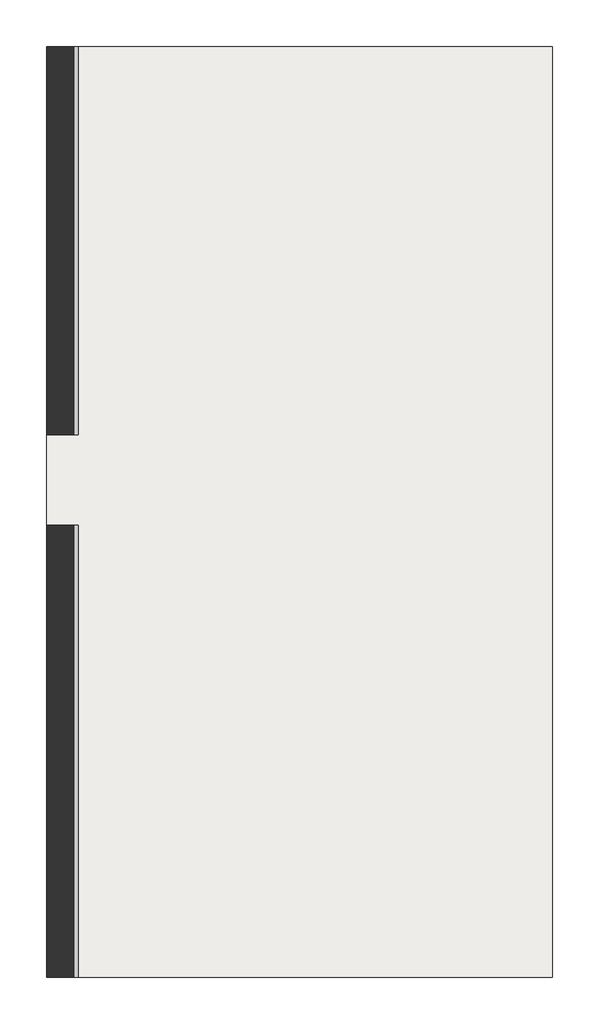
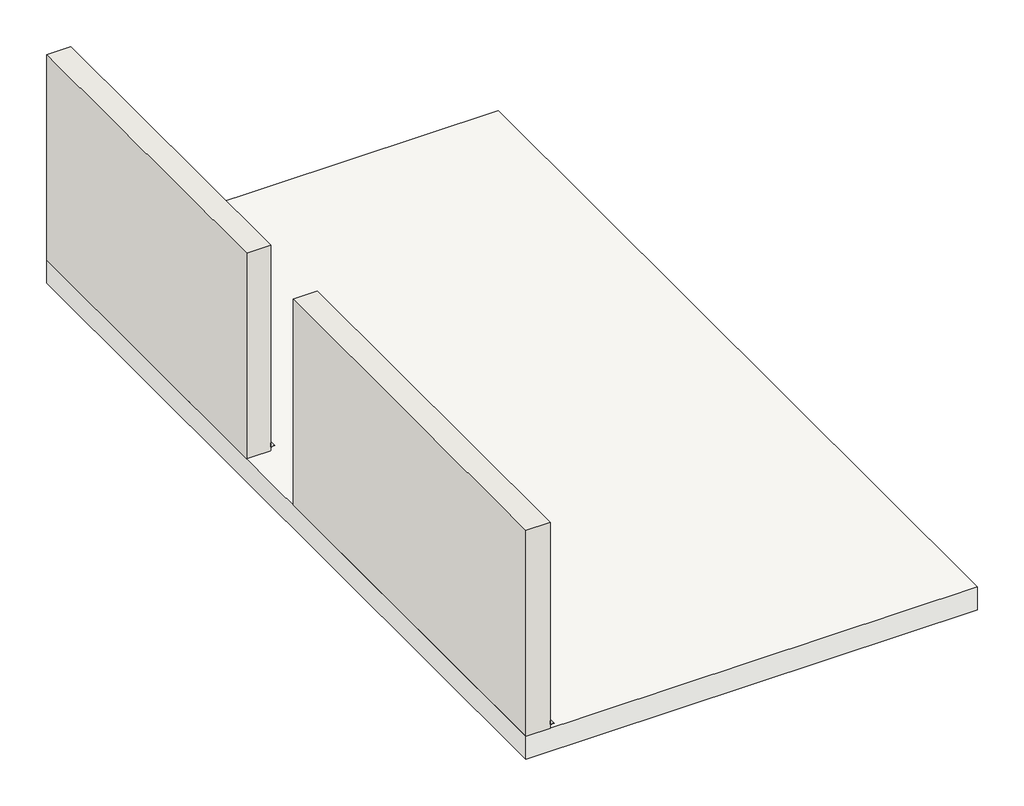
# One storey: 2 proxies, 2 walls, 1 slab.
"""IFC4 building model written with IfcOpenShell, lengths in millimetres."""

from ifc_helpers import new_model, si_unit, frame, origin, place, context, project, spatial, polyline, outline, extrude, element, save

model = new_model("IFC4")

# Units and contexts
model_context = context("Model", 3, world=origin())
ifc_project = project(units=[si_unit("LENGTHUNIT", "METRE", prefix="MILLI")], contexts=[model_context])

# Site, building, storey
site = spatial("IfcSite", under=ifc_project)
building = spatial("IfcBuilding", under=site)
storey = spatial("IfcBuildingStorey", under=building, Name="1 - Sopra solaio", Elevation=3000.0)

# Proxies
placement = place(None, origin())
element("IfcBuildingElementProxy", 1, Name="AQUASCUD JOIN VOLTECO", ObjectType="AQUASCUD JOIN VOLTECO", at=placement, inside=storey, context=model_context, shape_type="SweptSolid", body=[
    extrude(outline(polyline([(3100.0, -4623.4230353), (3050.0, -4623.4230353), (3050.0, -4573.4230353), (3051.0, -4573.4230353), (3051.0, -4622.4230353), (3100.0, -4622.4230353), (3100.0, -4623.4230353)])), frame((0.0, -3159.7326939, 0.0), z_axis=(0.0, 1.0, 0.0), x_axis=(0.0, 0.0, 1.0)), (0.0, 0.0, 1.0), 5003.9897017),
])
element("IfcBuildingElementProxy", 2, Name="AQUASCUD JOIN VOLTECO", ObjectType="AQUASCUD JOIN VOLTECO", at=placement, inside=storey, context=model_context, shape_type="SweptSolid", body=[
    extrude(outline(polyline([(3100.0, -4623.4230353), (3050.0, -4623.4230353), (3050.0, -4573.4230353), (3051.0, -4573.4230353), (3051.0, -4622.4230353), (3100.0, -4622.4230353), (3100.0, -4623.4230353)])), frame((0.0, 2844.2570078, 0.0), z_axis=(0.0, 1.0, 0.0), x_axis=(0.0, 0.0, 1.0)), (0.0, 0.0, 1.0), 4296.0102983),
])

# Slab
element("IfcSlab", 3, ObjectType="SOLAIO 30 cm", at=placement, inside=storey, context=model_context, shape_type="SweptSolid", body=[
    extrude(outline(polyline([(676.5769647, 7140.2673061), (676.5769647, -3159.7326939), (-4923.4230353, -3159.7326939), (-4923.4230353, 7140.2673061), (676.5769647, 7140.2673061)])), frame((0.0, 0.0, 2700.0), z_axis=(0.0, 0.0, 1.0), x_axis=(1.0, 0.0, 0.0)), (0.0, 0.0, 1.0), 300.0),
])

# Walls
element("IfcWall", 4, ObjectType="Generico - 30 cm", at=placement, inside=storey, context=model_context, shape_type="SweptSolid", body=[
    extrude(outline(polyline([(-4923.4230353, -3159.7326939), (-4923.4230353, 1844.2570078), (-4623.4230353, 1844.2570078), (-4623.4230353, -3159.7326939), (-4923.4230353, -3159.7326939)])), frame((0.0, 0.0, 3000.0), z_axis=(0.0, 0.0, 1.0), x_axis=(1.0, 0.0, 0.0)), (0.0, 0.0, 1.0), 2700.0),
])
element("IfcWall", 5, ObjectType="Generico - 30 cm", at=placement, inside=storey, context=model_context, shape_type="SweptSolid", body=[
    extrude(outline(polyline([(-4923.4230353, 2844.2570078), (-4923.4230353, 7140.2673061), (-4623.4230353, 7140.2673061), (-4623.4230353, 2844.2570078), (-4923.4230353, 2844.2570078)])), frame((0.0, 0.0, 3000.0), z_axis=(0.0, 0.0, 1.0), x_axis=(1.0, 0.0, 0.0)), (0.0, 0.0, 1.0), 2700.0),
])

save(model, "model.ifc")
